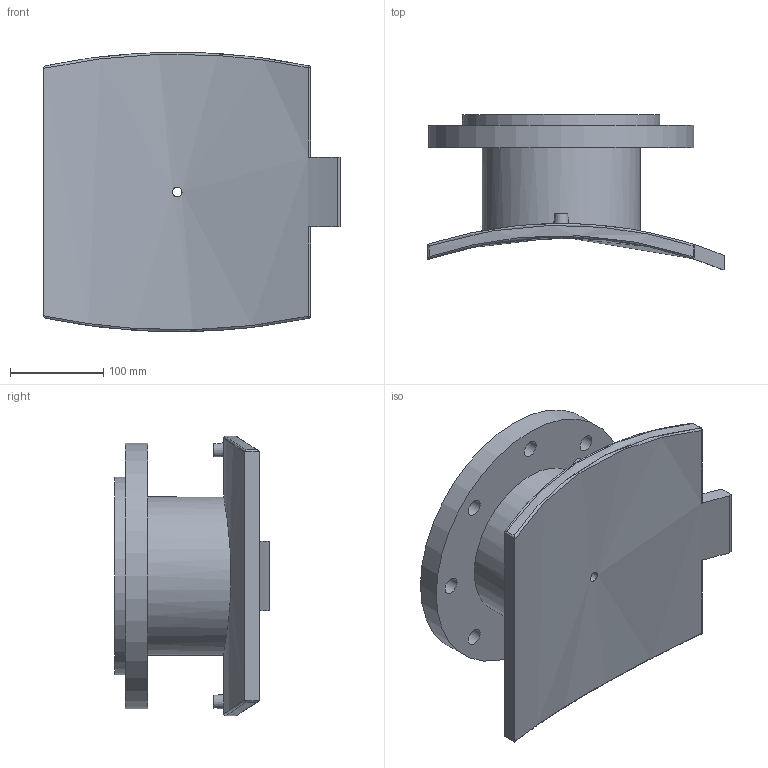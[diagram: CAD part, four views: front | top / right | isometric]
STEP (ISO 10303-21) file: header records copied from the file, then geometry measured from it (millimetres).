
FILE_DESCRIPTION(/* description */ ('PLASSON FLANGED BRANCH SADDLE 900x150'),/* implementation_level */ '2;1');
FILE_NAME(/* name */ 'C:\Dropbox\KIMPROJECTS-Inventor 2019\99-16-3568-Processing\ElectroFusion Fittings\495904_495903\stp\495903900150T.stp',/* time_stamp */ '2024-04-03T21:08:49+02:00',/* author */ ('KIM'),/* organization */ (''),/* preprocessor_version */ 'ST-DEVELOPER v17.2',/* originating_system */ 'Autodesk Inventor 2019',/* authorisation */ '');
FILE_SCHEMA (('AUTOMOTIVE_DESIGN { 1 0 10303 214 3 1 1 }','TECHNICAL_DATA_PACKAGING'));
Length unit declared in the file: millimetre
Products named in the file (1): 495903900150T
Bounding box: 318 x 166.15 x 299.82 mm (x, y, z)
Volume: 2991185.2 mm3; surface area: 421071.1 mm2
Topology: 1 solids, 1 shells, 58 faces, 151 edges, 118 vertices
Faces by surface type: cylinder 31, plane 17, sphere 4, bspline 4, cone 2
Full cylindrical faces by diameter (mm): 4 x2, 10 x2, 10.4 x1, 16 x1, 18 x8, 150 x1, 169.6 x1, 212 x1, 285 x1
Entity records: 2349 total; most frequent: CARTESIAN_POINT 853, DIRECTION 297, ORIENTED_EDGE 274, EDGE_CURVE 137, AXIS2_PLACEMENT_3D 125, VERTEX_POINT 92, EDGE_LOOP 87, CIRCLE 70
